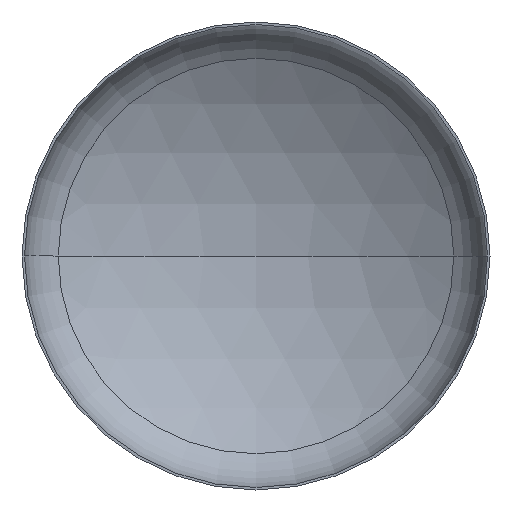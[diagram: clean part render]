
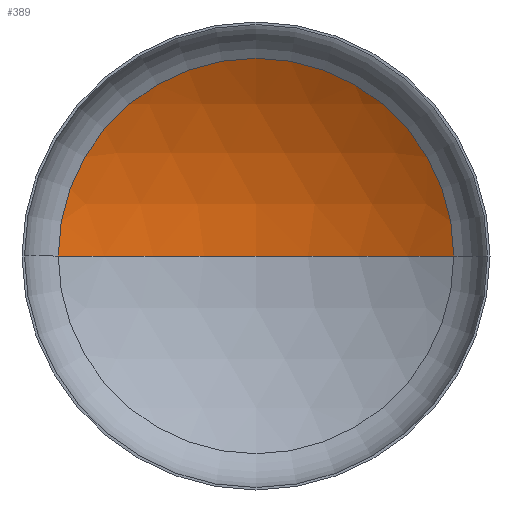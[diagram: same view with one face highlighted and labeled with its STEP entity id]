
A CAD part, front view. The second image highlights one B-rep face of the part: STEP entity #389.
In plain terms, the highlighted spherical face has radius 1360 mm.
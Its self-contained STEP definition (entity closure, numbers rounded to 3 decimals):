
#2 = SPHERICAL_SURFACE ( 'NONE', #305, 1360. ) ;
#4 = VERTEX_POINT ( 'NONE', #253 ) ;
#6 = AXIS2_PLACEMENT_3D ( 'NONE', #364, #366, #226 ) ;
#10 = CARTESIAN_POINT ( 'NONE',  ( 0., 455.956, 0. ) ) ;
#20 = ORIENTED_EDGE ( 'NONE', *, *, #334, .T. ) ;
#22 = AXIS2_PLACEMENT_3D ( 'NONE', #402, #260, #218 ) ;
#27 = EDGE_LOOP ( 'NONE', ( #154, #67, #20 ) ) ;
#67 = ORIENTED_EDGE ( 'NONE', *, *, #377, .T. ) ;
#81 = VERTEX_POINT ( 'NONE', #241 ) ;
#141 = CARTESIAN_POINT ( 'NONE',  ( 0., -904.044, 0. ) ) ;
#154 = ORIENTED_EDGE ( 'NONE', *, *, #374, .F. ) ;
#172 = FACE_OUTER_BOUND ( 'NONE', #27, .T. ) ;
#173 = CARTESIAN_POINT ( 'NONE',  ( 0., -904.044, 0. ) ) ;
#218 = DIRECTION ( 'NONE',  ( 1., 0., 0. ) ) ;
#226 = DIRECTION ( 'NONE',  ( 1., 0., 0. ) ) ;
#241 = CARTESIAN_POINT ( 'NONE',  ( -718.327, 250.774, 0. ) ) ;
#251 = CIRCLE ( 'NONE', #22, 718.327 ) ;
#252 = AXIS2_PLACEMENT_3D ( 'NONE', #141, #312, #314 ) ;
#253 = CARTESIAN_POINT ( 'NONE',  ( 718.327, 250.774, 0. ) ) ;
#260 = DIRECTION ( 'NONE',  ( 0., -1., 0. ) ) ;
#263 = DIRECTION ( 'NONE',  ( -1., 0., 0. ) ) ;
#294 = CIRCLE ( 'NONE', #6, 1360. ) ;
#305 = AXIS2_PLACEMENT_3D ( 'NONE', #173, #343, #263 ) ;
#312 = DIRECTION ( 'NONE',  ( 0., 0., -1. ) ) ;
#314 = DIRECTION ( 'NONE',  ( -1., 0., 0. ) ) ;
#326 = VERTEX_POINT ( 'NONE', #10 ) ;
#334 = EDGE_CURVE ( 'NONE', #4, #81, #251, .T. ) ;
#343 = DIRECTION ( 'NONE',  ( 0., 0., -1. ) ) ;
#363 = CIRCLE ( 'NONE', #252, 1360. ) ;
#364 = CARTESIAN_POINT ( 'NONE',  ( 0., -904.044, 0. ) ) ;
#366 = DIRECTION ( 'NONE',  ( 0., 0., 1. ) ) ;
#374 = EDGE_CURVE ( 'NONE', #326, #81, #294, .T. ) ;
#377 = EDGE_CURVE ( 'NONE', #326, #4, #363, .T. ) ;
#389 = ADVANCED_FACE ( 'NONE', ( #172 ), #2, .F. ) ;
#402 = CARTESIAN_POINT ( 'NONE',  ( 0., 250.774, 0. ) ) ;
